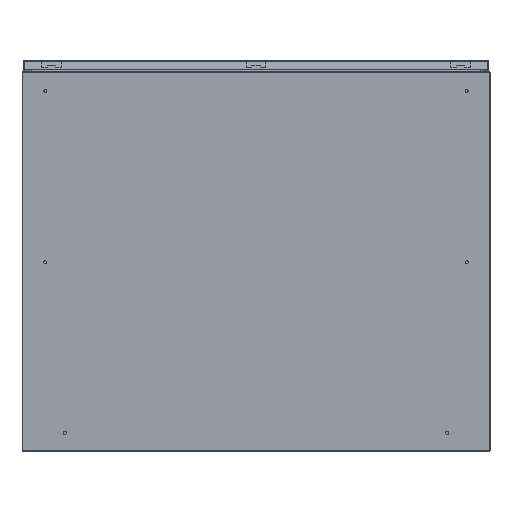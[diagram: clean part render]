
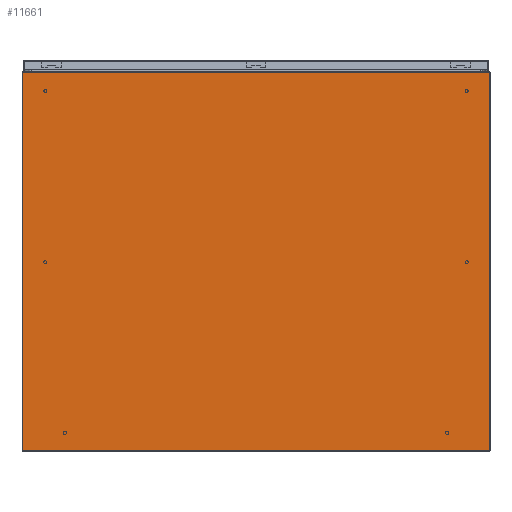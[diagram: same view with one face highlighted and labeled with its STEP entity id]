
A CAD part, top view. The second image highlights one B-rep face of the part: STEP entity #11661.
In plain terms, the highlighted planar face has unit normal (0, 0, 1).
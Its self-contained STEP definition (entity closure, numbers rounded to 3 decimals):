
#1079 = CARTESIAN_POINT ( 'NONE',  ( -600., 483.378, 0. ) ) ;
#2110 = DIRECTION ( 'NONE',  ( 0., 1., 0. ) ) ;
#4677 = VECTOR ( 'NONE', #10711, 1000. ) ;
#4827 = DIRECTION ( 'NONE',  ( 1., 0., 0. ) ) ;
#6768 = VERTEX_POINT ( 'NONE', #36252 ) ;
#6989 = VECTOR ( 'NONE', #2110, 1000. ) ;
#7987 = CARTESIAN_POINT ( 'NONE',  ( -600., 486.28, 0. ) ) ;
#8003 = LINE ( 'NONE', #36785, #6989 ) ;
#10636 = DIRECTION ( 'NONE',  ( 1., 0., 0. ) ) ;
#10711 = DIRECTION ( 'NONE',  ( 0., -1., 0. ) ) ;
#10956 = FACE_OUTER_BOUND ( 'NONE', #31755, .T. ) ;
#11155 = ORIENTED_EDGE ( 'NONE', *, *, #21447, .T. ) ;
#11661 = ADVANCED_FACE ( 'NONE', ( #10956 ), #32979, .T. ) ;
#14068 = DIRECTION ( 'NONE',  ( 0., 0., 1. ) ) ;
#14739 = LINE ( 'NONE', #1079, #38143 ) ;
#16890 = VECTOR ( 'NONE', #10636, 1000. ) ;
#19142 = VERTEX_POINT ( 'NONE', #28200 ) ;
#19729 = EDGE_CURVE ( 'NONE', #19142, #24975, #14739, .T. ) ;
#20025 = CARTESIAN_POINT ( 'NONE',  ( -597.65, -486.28, 0. ) ) ;
#20426 = CARTESIAN_POINT ( 'NONE',  ( -597.65, -486.28, 0. ) ) ;
#21447 = EDGE_CURVE ( 'NONE', #24975, #28167, #21568, .T. ) ;
#21568 = LINE ( 'NONE', #20426, #4677 ) ;
#22035 = ORIENTED_EDGE ( 'NONE', *, *, #36766, .T. ) ;
#22889 = EDGE_CURVE ( 'NONE', #6768, #19142, #8003, .T. ) ;
#24130 = DIRECTION ( 'NONE',  ( -1., 0., 0. ) ) ;
#24395 = LINE ( 'NONE', #36610, #16890 ) ;
#24975 = VERTEX_POINT ( 'NONE', #36492 ) ;
#28167 = VERTEX_POINT ( 'NONE', #20025 ) ;
#28200 = CARTESIAN_POINT ( 'NONE',  ( 597.65, 483.378, 0. ) ) ;
#29397 = AXIS2_PLACEMENT_3D ( 'NONE', #7987, #14068, #4827 ) ;
#31755 = EDGE_LOOP ( 'NONE', ( #32154, #11155, #22035, #38805 ) ) ;
#32154 = ORIENTED_EDGE ( 'NONE', *, *, #19729, .T. ) ;
#32979 = PLANE ( 'NONE',  #29397 ) ;
#36252 = CARTESIAN_POINT ( 'NONE',  ( 597.65, -486.28, 0. ) ) ;
#36492 = CARTESIAN_POINT ( 'NONE',  ( -597.65, 483.378, 0. ) ) ;
#36610 = CARTESIAN_POINT ( 'NONE',  ( -600., -486.28, 0. ) ) ;
#36766 = EDGE_CURVE ( 'NONE', #28167, #6768, #24395, .T. ) ;
#36785 = CARTESIAN_POINT ( 'NONE',  ( 597.65, 486.28, 0. ) ) ;
#38143 = VECTOR ( 'NONE', #24130, 1000. ) ;
#38805 = ORIENTED_EDGE ( 'NONE', *, *, #22889, .T. ) ;
